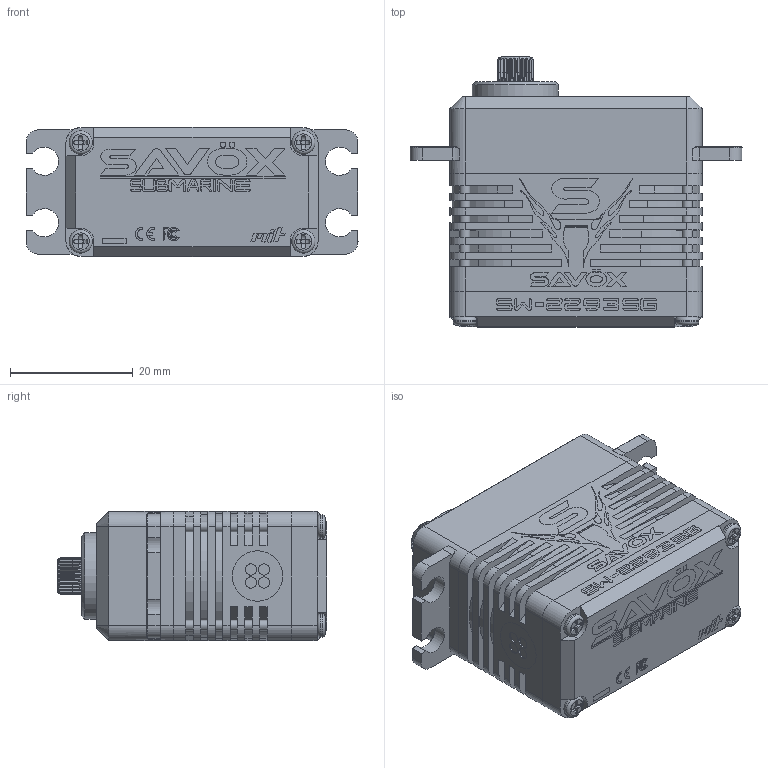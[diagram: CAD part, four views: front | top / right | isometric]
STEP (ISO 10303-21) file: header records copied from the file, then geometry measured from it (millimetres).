
FILE_DESCRIPTION (( 'STEP AP214' ), '1' );
FILE_NAME ('SW-2293SG_3D??+??.STEP', '2025-05-01T11:59:29', ( '' ), ( '' ), 'SwSTEP 2.0', 'SolidWorks 2024', '' );
FILE_SCHEMA (( 'AUTOMOTIVE_DESIGN' ));
Length unit declared in the file: millimetre
Products named in the file (1): SW-2293SG_3D零件+齒輪
Bounding box: 54 x 43.9 x 21 mm (x, y, z)
Volume: 31814.5 mm3; surface area: 8101.2 mm2
Topology: 1 solids, 1 shells, 682 faces, 3541 edges, 2987 vertices
Faces by surface type: plane 363, cylinder 192, cone 90, torus 37
Full cylindrical faces by diameter (mm): 1.7 x24, 1.85 x4, 2.5 x1, 3.8 x4, 6.1 x1, 14 x1
Entity records: 46977 total; most frequent: CARTESIAN_POINT 12753, ORIENTED_EDGE 6964, DIRECTION 3892, EDGE_CURVE 3482, VERTEX_POINT 2977, VECTOR 1572, LINE 1572, B_SPLINE_CURVE_WITH_KNOTS 1425
